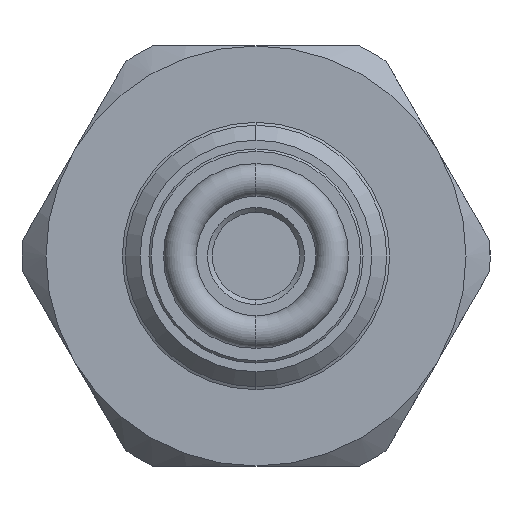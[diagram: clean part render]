
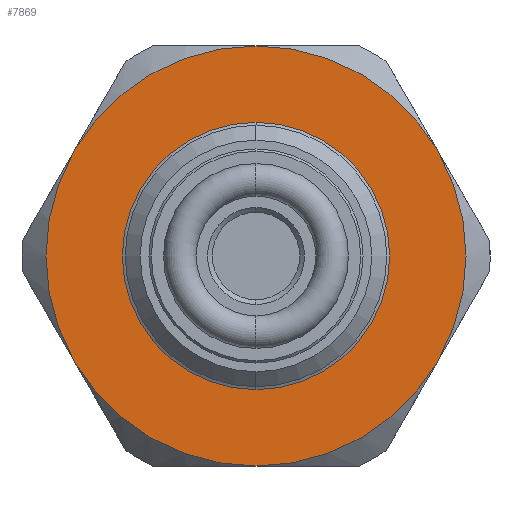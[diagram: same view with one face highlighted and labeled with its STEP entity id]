
A CAD part, left-side view. The second image highlights one B-rep face of the part: STEP entity #7869.
In plain terms, the highlighted planar face has unit normal (-1, 0, 0).
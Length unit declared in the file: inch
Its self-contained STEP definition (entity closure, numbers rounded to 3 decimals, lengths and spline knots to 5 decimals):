
#299 = VERTEX_POINT ( 'NONE', #5333 ) ;
#401 = CARTESIAN_POINT ( 'NONE',  ( 0.6175, 0.37889, -0.21875 ) ) ;
#535 = DIRECTION ( 'NONE',  ( -1., 0., 0. ) ) ;
#717 = DIRECTION ( 'NONE',  ( -1., 0., 0. ) ) ;
#885 = DIRECTION ( 'NONE',  ( 0., 0., 1. ) ) ;
#1030 = DIRECTION ( 'NONE',  ( 1., 0., 0. ) ) ;
#1065 = EDGE_LOOP ( 'NONE', ( #9321, #5427 ) ) ;
#1508 = CIRCLE ( 'NONE', #1958, 0.4375 ) ;
#1553 = CARTESIAN_POINT ( 'NONE',  ( 0.6175, 0., 0.271 ) ) ;
#1612 = ORIENTED_EDGE ( 'NONE', *, *, #13933, .T. ) ;
#1958 = AXIS2_PLACEMENT_3D ( 'NONE', #3504, #9979, #6917 ) ;
#2017 = EDGE_CURVE ( 'NONE', #13760, #299, #8120, .T. ) ;
#2144 = CARTESIAN_POINT ( 'NONE',  ( 0.6175, -0.37889, -0.21875 ) ) ;
#2241 = CARTESIAN_POINT ( 'NONE',  ( 0.6175, 0., 0. ) ) ;
#2351 = ORIENTED_EDGE ( 'NONE', *, *, #13316, .T. ) ;
#2399 = ORIENTED_EDGE ( 'NONE', *, *, #11622, .T. ) ;
#2678 = DIRECTION ( 'NONE',  ( -1., 0., 0. ) ) ;
#2884 = AXIS2_PLACEMENT_3D ( 'NONE', #5926, #535, #6068 ) ;
#3138 = VERTEX_POINT ( 'NONE', #14129 ) ;
#3244 = EDGE_CURVE ( 'NONE', #3457, #5440, #10208, .T. ) ;
#3332 = FACE_OUTER_BOUND ( 'NONE', #6372, .T. ) ;
#3457 = VERTEX_POINT ( 'NONE', #11621 ) ;
#3485 = AXIS2_PLACEMENT_3D ( 'NONE', #8739, #6406, #4150 ) ;
#3504 = CARTESIAN_POINT ( 'NONE',  ( 0.6175, 0., 0. ) ) ;
#4150 = DIRECTION ( 'NONE',  ( 0., 0., 1. ) ) ;
#4887 = ORIENTED_EDGE ( 'NONE', *, *, #3244, .T. ) ;
#4905 = EDGE_CURVE ( 'NONE', #6228, #3138, #7679, .T. ) ;
#5233 = CIRCLE ( 'NONE', #8254, 0.271 ) ;
#5333 = CARTESIAN_POINT ( 'NONE',  ( 0.6175, 0., -0.271 ) ) ;
#5427 = ORIENTED_EDGE ( 'NONE', *, *, #13429, .T. ) ;
#5440 = VERTEX_POINT ( 'NONE', #401 ) ;
#5910 = CIRCLE ( 'NONE', #14064, 0.4375 ) ;
#5926 = CARTESIAN_POINT ( 'NONE',  ( 0.6175, 0., 0. ) ) ;
#6068 = DIRECTION ( 'NONE',  ( 0., 0., 1. ) ) ;
#6228 = VERTEX_POINT ( 'NONE', #12307 ) ;
#6372 = EDGE_LOOP ( 'NONE', ( #10498, #2351, #4887, #7248, #1612, #2399 ) ) ;
#6406 = DIRECTION ( 'NONE',  ( -1., 0., 0. ) ) ;
#6460 = DIRECTION ( 'NONE',  ( -1., 0., 0. ) ) ;
#6917 = DIRECTION ( 'NONE',  ( 0., 0., 1. ) ) ;
#7248 = ORIENTED_EDGE ( 'NONE', *, *, #12516, .T. ) ;
#7621 = PLANE ( 'NONE',  #9569 ) ;
#7679 = CIRCLE ( 'NONE', #8374, 0.4375 ) ;
#7869 = ADVANCED_FACE ( 'NONE', ( #10890, #3332 ), #7621, .T. ) ;
#8120 = CIRCLE ( 'NONE', #13009, 0.271 ) ;
#8254 = AXIS2_PLACEMENT_3D ( 'NONE', #12880, #11767, #11549 ) ;
#8374 = AXIS2_PLACEMENT_3D ( 'NONE', #8980, #11077, #12469 ) ;
#8739 = CARTESIAN_POINT ( 'NONE',  ( 0.6175, 0., 0. ) ) ;
#8793 = DIRECTION ( 'NONE',  ( 0., 0., 1. ) ) ;
#8980 = CARTESIAN_POINT ( 'NONE',  ( 0.6175, 0., 0. ) ) ;
#9321 = ORIENTED_EDGE ( 'NONE', *, *, #2017, .T. ) ;
#9569 = AXIS2_PLACEMENT_3D ( 'NONE', #2241, #6460, #8793 ) ;
#9979 = DIRECTION ( 'NONE',  ( -1., 0., 0. ) ) ;
#10208 = CIRCLE ( 'NONE', #3485, 0.4375 ) ;
#10450 = DIRECTION ( 'NONE',  ( 0., 0., 1. ) ) ;
#10498 = ORIENTED_EDGE ( 'NONE', *, *, #4905, .T. ) ;
#10596 = CARTESIAN_POINT ( 'NONE',  ( 0.6175, 0., 0. ) ) ;
#10850 = CARTESIAN_POINT ( 'NONE',  ( 0.6175, 0., 0. ) ) ;
#10890 = FACE_BOUND ( 'NONE', #1065, .T. ) ;
#11077 = DIRECTION ( 'NONE',  ( -1., 0., 0. ) ) ;
#11549 = DIRECTION ( 'NONE',  ( 0., 0., 1. ) ) ;
#11561 = DIRECTION ( 'NONE',  ( 0., 0., 1. ) ) ;
#11621 = CARTESIAN_POINT ( 'NONE',  ( 0.6175, 0.37889, 0.21875 ) ) ;
#11622 = EDGE_CURVE ( 'NONE', #13617, #6228, #12652, .T. ) ;
#11767 = DIRECTION ( 'NONE',  ( 1., 0., 0. ) ) ;
#12188 = CIRCLE ( 'NONE', #14054, 0.4375 ) ;
#12307 = CARTESIAN_POINT ( 'NONE',  ( 0.6175, -0.37889, 0.21875 ) ) ;
#12469 = DIRECTION ( 'NONE',  ( 0., 0., 1. ) ) ;
#12516 = EDGE_CURVE ( 'NONE', #5440, #12673, #12188, .T. ) ;
#12652 = CIRCLE ( 'NONE', #2884, 0.4375 ) ;
#12673 = VERTEX_POINT ( 'NONE', #13746 ) ;
#12825 = CARTESIAN_POINT ( 'NONE',  ( 0.6175, 0., 0. ) ) ;
#12880 = CARTESIAN_POINT ( 'NONE',  ( 0.6175, 0., 0. ) ) ;
#13009 = AXIS2_PLACEMENT_3D ( 'NONE', #10850, #1030, #885 ) ;
#13316 = EDGE_CURVE ( 'NONE', #3138, #3457, #5910, .T. ) ;
#13429 = EDGE_CURVE ( 'NONE', #299, #13760, #5233, .T. ) ;
#13617 = VERTEX_POINT ( 'NONE', #2144 ) ;
#13746 = CARTESIAN_POINT ( 'NONE',  ( 0.6175, 0., -0.4375 ) ) ;
#13760 = VERTEX_POINT ( 'NONE', #1553 ) ;
#13933 = EDGE_CURVE ( 'NONE', #12673, #13617, #1508, .T. ) ;
#14054 = AXIS2_PLACEMENT_3D ( 'NONE', #10596, #2678, #10450 ) ;
#14064 = AXIS2_PLACEMENT_3D ( 'NONE', #12825, #717, #11561 ) ;
#14129 = CARTESIAN_POINT ( 'NONE',  ( 0.6175, 0., 0.4375 ) ) ;
